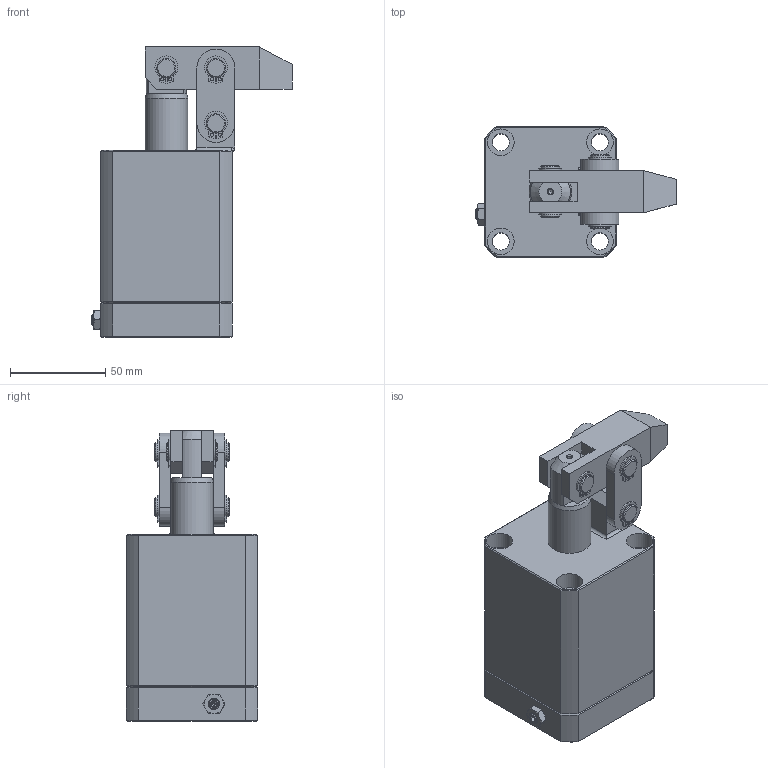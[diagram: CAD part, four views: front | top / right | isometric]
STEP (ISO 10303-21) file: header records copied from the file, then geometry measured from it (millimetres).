
FILE_DESCRIPTION(/* description */ ('Unknown'),/* implementation_level */ '2;1');
FILE_NAME(/* name */ 'HLC-MF40-A',/* time_stamp */ '2022-11-23T04:33:28+08:00',/* author */ ('Unknown'),/* organization */ ('Unknown'),/* preprocessor_version */ 'ST-DEVELOPER v16.7',/* originating_system */ 'DEX',/* authorisation */ $);
FILE_SCHEMA (('AUTOMOTIVE_DESIGN {1 0 10303 214 3 1 1}'));
Length unit declared in the file: millimetre
Products named in the file (8): HLC-MF40-A; HLC-MF40-CYLINDER; HLC-4002-AXLE CENTRE; HLC-40-A; HLC-40-墊; HLC-40-PINµu; HLC-40-PINªø·; HLC-40-Cｦｩ｣迺ｰ
Assembly tree (14 placements, depth 2):
  HLC-MF40-A
    HLC-MF40-CYLINDER
    HLC-4002-AXLE CENTRE
    HLC-40-A
    HLC-40-墊  x2
    HLC-40-PINµu
    HLC-40-PINªø·  x2
    HLC-40-Cｦｩ｣迺ｰ  x6
Bounding box: 105.1 x 69 x 152.2 mm (x, y, z)
Volume: 461727.6 mm3; surface area: 86277.6 mm2
Topology: 14 solids, 14 shells, 316 faces, 727 edges, 465 vertices
Faces by surface type: plane 138, cylinder 126, cone 38, bspline 12, torus 2
Full cylindrical faces by diameter (mm): 1.7 x12, 2.496 x1, 5 x2, 6 x1, 9 x4, 9.5 x6, 10 x18, 12 x2, 14 x4, 22.4 x2, 39.5 x1, 40 x1
Entity records: 6023 total; most frequent: CARTESIAN_POINT 1334, DIRECTION 923, ORIENTED_EDGE 824, EDGE_CURVE 412, AXIS2_PLACEMENT_3D 380, FACE_BOUND 314, EDGE_LOOP 313, VERTEX_POINT 284
